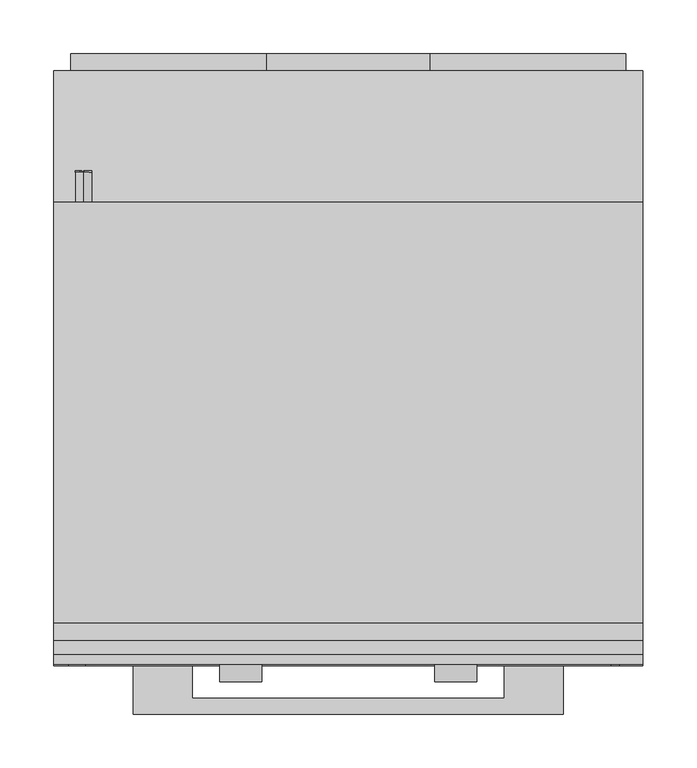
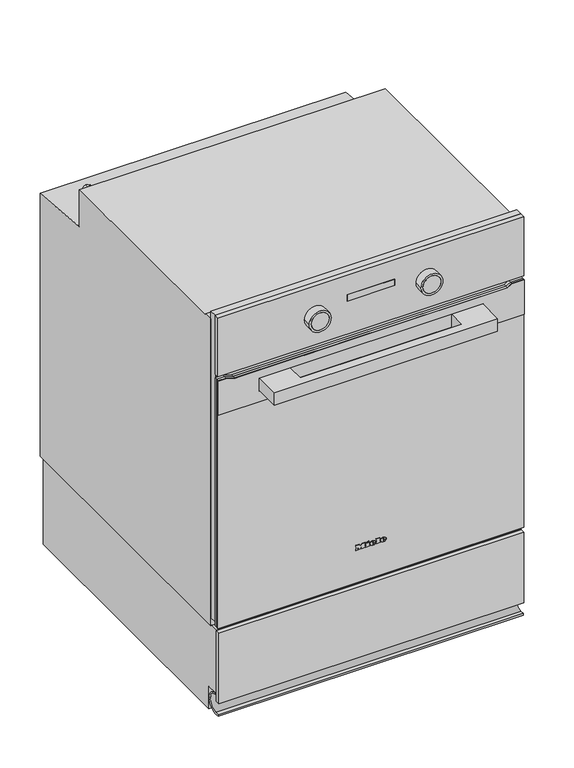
"""IFC4 building model written with IfcOpenShell, lengths in millimetres: proxy geometry, 12146130_CH_H2861-55BP_EDST-CLS : 22286149_CH_12146130_H2861-55BP_EDST-CLS."""

from ifc_helpers import new_model, si_unit, point, frame, frame_2d, origin, place, context, project, spatial, polyline, circle_curve, ellipse_curve, trimmed, segment, composite_curve, outline, extrude, faceted_brep, source, transform, mapped, element, save
from ifc_brep_helpers import plane_surface, cylinder_surface, revolved_surface, extruded_surface, advanced_brep


def specialty_equipment_0b252357(model_context):
    return source(origin(), model_context, "Body", "SolidModel", [
        extrude(outline(polyline([(-273.5, -15.3), (273.5, -15.3), (273.5, -23.3), (-273.5, -23.3), (-273.5, -15.3)])), frame((0.0, 0.0, 28.0), z_axis=(0.0, 0.0, 1.0), x_axis=(1.0, 0.0, 0.0)), (0.0, 0.0, 1.0), 133.5),
        extrude(outline(composite_curve([segment(polyline([(-15.3, 39.5), (-15.3, 42.0), (-13.3, 42.0)]), True, "CONTINUOUS"), segment(trimmed(circle_curve(frame_2d((-13.3, 23.0)), 19.0), [point((-13.3, 42.0))], [point((5.7, 23.0))], False, "CARTESIAN"), True, "CONTINUOUS"), segment(trimmed(circle_curve(frame_2d((-16.2470942, 23.0)), 21.9470942), [point((5.7, 23.0))], [point((2.0965309, 10.9506696))], False, "CARTESIAN"), True, "CONTINUOUS"), segment(trimmed(circle_curve(frame_2d((-13.3, 22.7225846)), 19.381206), [point((2.0965309, 10.9506696))], [point((-13.3, 3.3413786))], False, "CARTESIAN"), True, "CONTINUOUS"), segment(polyline([(-13.3, 3.3413786), (-21.3, 3.3413786), (-21.3, 6.5166751), (-13.9417749, 6.5166751)]), True, "CONTINUOUS"), segment(trimmed(circle_curve(frame_2d((-13.9417749, 23.0333249)), 16.5166498), [point((-13.9417749, 6.5166751))], [point((-12.6579007, 39.5))], True, "CARTESIAN"), True, "CONTINUOUS"), segment(polyline([(-12.6579007, 39.5), (-15.3, 39.5)]), True, "CONTINUOUS")], self_intersect=False)), frame((-273.5, 0.0, 0.0), z_axis=(1.0, 0.0, 0.0), x_axis=(0.0, 1.0, 0.0)), (0.0, 0.0, 1.0), 547.0),
        extrude(outline(polyline([(-15.3, 162.0), (520.7, 162.0), (520.7, 0.0), (6.7, 0.0), (6.7, 43.1784801), (-15.3, 43.1784801), (-15.3, 162.0)])), frame((-273.5, 0.0, 0.0), z_axis=(1.0, 0.0, 0.0), x_axis=(0.0, 1.0, 0.0)), (0.0, 0.0, 1.0), 547.0),
        advanced_brep(
        [(21.28, -23.0, 234.133), (21.28, -23.0, 235.042), (27.301, -23.0, 235.042), (16.825, -23.0, 235.042), (19.3, -23.0, 232.0), (27.148, -23.0, 234.133), (24.43, -23.0, 234.133), (22.288, -23.0, 233.125), (21.28, -23.0, 236.194), (21.28, -23.0, 237.175), (22.819, -23.0, 237.175), (22.819, -23.0, 236.194), (21.28, -22.0, 234.133), (22.288, -22.0, 233.125), (24.43, -22.0, 234.133), (27.148, -22.0, 234.133), (19.3, -22.0, 232.0), (16.825, -22.0, 235.042), (27.301, -22.0, 235.042), (21.28, -22.0, 235.042), (21.28, -22.0, 236.194), (22.819, -22.0, 236.194), (22.819, -22.0, 237.175), (21.28, -22.0, 237.175)],
        [
            (0, 1),
            (1, 2),
            (2, 3, ellipse_curve(frame((22.063, -23.0, 235.042), z_axis=(0.0, -1.0, 0.0), x_axis=(-1.0, 0.0, 0.0)), 5.238, 4.329)),
            (3, 4, circle_curve(frame((20.3080491, -23.0, 235.348), z_axis=(0.0, -1.0, 0.0), x_axis=(0.0, 0.0, -1.0)), 3.4964649)),
            (4, 5, circle_curve(frame((21.9581428, -23.0, 237.724), z_axis=(0.0, -1.0, 0.0), x_axis=(0.0, 0.0, -1.0)), 6.3110933)),
            (5, 6),
            (6, 7, circle_curve(frame((22.7279412, -23.0, 234.97), z_axis=(0.0, 1.0, 0.0), x_axis=(0.0, 0.0, -1.0)), 1.896727)),
            (7, 0, circle_curve(frame((22.288, -23.0, 234.133), z_axis=(0.0, 1.0, 0.0), x_axis=(0.0, 0.0, -1.0)), 1.008)),
            (8, 9),
            (9, 10, circle_curve(frame((22.0495, -23.0, 237.175), z_axis=(0.0, 1.0, 0.0), x_axis=(0.0, 0.0, -1.0)), 0.7695)),
            (10, 11),
            (11, 8),
            (12, 13, circle_curve(frame((22.288, -22.0, 234.133), z_axis=(0.0, -1.0, 0.0), x_axis=(0.0, 0.0, -1.0)), 1.008)),
            (13, 14, circle_curve(frame((22.7279412, -22.0, 234.97), z_axis=(0.0, -1.0, 0.0), x_axis=(0.0, 0.0, -1.0)), 1.896727)),
            (14, 15),
            (15, 16, circle_curve(frame((21.9581428, -22.0, 237.724), z_axis=(0.0, 1.0, 0.0), x_axis=(0.0, 0.0, -1.0)), 6.3110933)),
            (16, 17, circle_curve(frame((20.3080491, -22.0, 235.348), z_axis=(0.0, 1.0, 0.0), x_axis=(0.0, 0.0, -1.0)), 3.4964649)),
            (17, 18, ellipse_curve(frame((22.063, -22.0, 235.042), z_axis=(0.0, 1.0, 0.0), x_axis=(-1.0, 0.0, 0.0)), 5.238, 4.329)),
            (18, 19),
            (19, 12),
            (20, 21),
            (21, 22),
            (22, 23, circle_curve(frame((22.0495, -22.0, 237.175), z_axis=(0.0, -1.0, 0.0), x_axis=(0.0, 0.0, -1.0)), 0.7695)),
            (23, 20),
            (0, 12),
            (19, 1),
            (18, 2),
            (5, 15),
            (14, 6),
            (17, 3),
            (13, 7),
            (16, 4),
            (8, 20),
            (23, 9),
            (22, 10),
            (21, 11),
        ],
        [
            plane_surface(frame((21.28, -23.0, 235.042), z_axis=(0.0, -1.0, 0.0), x_axis=(0.0, 0.0, 1.0))),
            plane_surface(frame((21.28, -22.0, 235.042), z_axis=(0.0, 1.0, 0.0), x_axis=(0.0, 0.0, -1.0))),
            plane_surface(frame((21.28, -23.0, 234.133), z_axis=(1.0, 0.0, 0.0), x_axis=(0.0, 1.0, 0.0))),
            plane_surface(frame((21.28, -23.0, 235.042), z_axis=(0.0, 0.0, -1.0), x_axis=(0.0, 1.0, 0.0))),
            plane_surface(frame((27.148, -23.0, 234.133), z_axis=(0.0, 0.0, 1.0), x_axis=(0.0, 1.0, 0.0))),
            extruded_surface(trimmed(ellipse_curve(frame((22.063, -21.0, 235.042), z_axis=(0.0, -1.0, 0.0), x_axis=(-1.0, 0.0, 0.0)), 5.238, 4.329), [point((27.301, -21.0, 235.042))], [point((16.825, -21.0, 235.042))], True, "CARTESIAN"), (0.0, -1.0, 0.0), 1.0),
            revolved_surface(polyline([(22.7279412, -22.0, 233.073273), (22.7279412, -23.0, 233.073273)]), (22.7279412, -22.0, 234.97), (0.0, 1.0, 0.0)),
            revolved_surface(polyline([(22.288, -22.0, 233.125), (22.288, -23.0, 233.125)]), (22.288, -22.0, 234.133), (0.0, 1.0, 0.0)),
            cylinder_surface(frame((20.3080491, -22.0, 235.348), z_axis=(0.0, -1.0, 0.0), x_axis=(0.0, 0.0, -1.0)), 3.4964649),
            cylinder_surface(frame((21.9581428, -22.0, 237.724), z_axis=(0.0, -1.0, 0.0), x_axis=(0.0, 0.0, -1.0)), 6.3110933),
            plane_surface(frame((21.28, -23.0, 236.194), z_axis=(1.0, 0.0, 0.0), x_axis=(0.0, 1.0, 0.0))),
            revolved_surface(polyline([(22.0495, -22.0, 236.40550000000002), (22.0495, -23.0, 236.40550000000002)]), (22.0495, -22.0, 237.175), (0.0, 1.0, 0.0)),
            plane_surface(frame((22.819, -23.0, 237.175), z_axis=(-1.0, 0.0, 0.0), x_axis=(0.0, 1.0, 0.0))),
            plane_surface(frame((22.819, -23.0, 236.194), z_axis=(0.0, 0.0, 1.0), x_axis=(0.0, 1.0, 0.0))),
        ],
        [
            (0, [[1, 2, 3, 4, 5, 6, 7, 8], [9, 10, 11, 12]]),
            (1, [[13, 14, 15, 16, 17, 18, 19, 20], [21, 22, 23, 24]]),
            (2, [[-1, 25, -20, 26]]),
            (3, [[-2, -26, -19, 27]]),
            (4, [[-6, 28, -15, 29]]),
            (5, [[-3, -27, -18, 30]]),
            (6, [[-7, -29, -14, 31]]),
            (7, [[-8, -31, -13, -25]]),
            (8, [[-4, -30, -17, 32]]),
            (9, [[-5, -32, -16, -28]]),
            (10, [[-9, 33, -24, 34]]),
            (11, [[-10, -34, -23, 35]]),
            (12, [[-11, -35, -22, 36]]),
            (13, [[-12, -36, -21, -33]]),
        ],
    ),
        advanced_brep(
        [(2.497, -23.0, 234.133), (2.497, -23.0, 235.042), (8.518, -23.0, 235.042), (-1.958, -23.0, 235.042), (0.517, -23.0, 232.0), (8.365, -23.0, 234.133), (5.647, -23.0, 234.133), (3.505, -23.0, 233.125), (2.497, -23.0, 236.194), (2.497, -23.0, 237.175), (4.036, -23.0, 237.175), (4.036, -23.0, 236.194), (2.497, -22.0, 234.133), (3.505, -22.0, 233.125), (5.647, -22.0, 234.133), (8.365, -22.0, 234.133), (0.517, -22.0, 232.0), (-1.958, -22.0, 235.042), (8.518, -22.0, 235.042), (2.497, -22.0, 235.042), (2.497, -22.0, 236.194), (4.036, -22.0, 236.194), (4.036, -22.0, 237.175), (2.497, -22.0, 237.175)],
        [
            (0, 1),
            (1, 2),
            (2, 3, ellipse_curve(frame((3.28, -23.0, 235.042), z_axis=(0.0, -1.0, 0.0), x_axis=(-1.0, 0.0, 0.0)), 5.238, 4.329)),
            (3, 4, circle_curve(frame((1.5250491, -23.0, 235.348), z_axis=(0.0, -1.0, 0.0), x_axis=(0.0, 0.0, -1.0)), 3.4964649)),
            (4, 5, circle_curve(frame((3.1751428, -23.0, 237.724), z_axis=(0.0, -1.0, 0.0), x_axis=(0.0, 0.0, -1.0)), 6.3110933)),
            (5, 6),
            (6, 7, circle_curve(frame((3.9449412, -23.0, 234.97), z_axis=(0.0, 1.0, 0.0), x_axis=(0.0, 0.0, -1.0)), 1.896727)),
            (7, 0, circle_curve(frame((3.505, -23.0, 234.133), z_axis=(0.0, 1.0, 0.0), x_axis=(0.0, 0.0, -1.0)), 1.008)),
            (8, 9),
            (9, 10, circle_curve(frame((3.2665, -23.0, 237.175), z_axis=(0.0, 1.0, 0.0), x_axis=(0.0, 0.0, -1.0)), 0.7695)),
            (10, 11),
            (11, 8),
            (12, 13, circle_curve(frame((3.505, -22.0, 234.133), z_axis=(0.0, -1.0, 0.0), x_axis=(0.0, 0.0, -1.0)), 1.008)),
            (13, 14, circle_curve(frame((3.9449412, -22.0, 234.97), z_axis=(0.0, -1.0, 0.0), x_axis=(0.0, 0.0, -1.0)), 1.896727)),
            (14, 15),
            (15, 16, circle_curve(frame((3.1751428, -22.0, 237.724), z_axis=(0.0, 1.0, 0.0), x_axis=(0.0, 0.0, -1.0)), 6.3110933)),
            (16, 17, circle_curve(frame((1.5250491, -22.0, 235.348), z_axis=(0.0, 1.0, 0.0), x_axis=(0.0, 0.0, -1.0)), 3.4964649)),
            (17, 18, ellipse_curve(frame((3.28, -22.0, 235.042), z_axis=(0.0, 1.0, 0.0), x_axis=(-1.0, 0.0, 0.0)), 5.238, 4.329)),
            (18, 19),
            (19, 12),
            (20, 21),
            (21, 22),
            (22, 23, circle_curve(frame((3.2665, -22.0, 237.175), z_axis=(0.0, -1.0, 0.0), x_axis=(0.0, 0.0, -1.0)), 0.7695)),
            (23, 20),
            (0, 12),
            (19, 1),
            (18, 2),
            (5, 15),
            (14, 6),
            (17, 3),
            (13, 7),
            (16, 4),
            (8, 20),
            (23, 9),
            (22, 10),
            (21, 11),
        ],
        [
            plane_surface(frame((2.497, -23.0, 235.042), z_axis=(0.0, -1.0, 0.0), x_axis=(0.0, 0.0, 1.0))),
            plane_surface(frame((2.497, -22.0, 235.042), z_axis=(0.0, 1.0, 0.0), x_axis=(0.0, 0.0, -1.0))),
            plane_surface(frame((2.497, -23.0, 234.133), z_axis=(1.0, 0.0, 0.0), x_axis=(0.0, 1.0, 0.0))),
            plane_surface(frame((2.497, -23.0, 235.042), z_axis=(0.0, 0.0, -1.0), x_axis=(0.0, 1.0, 0.0))),
            plane_surface(frame((8.365, -23.0, 234.133), z_axis=(0.0, 0.0, 1.0), x_axis=(0.0, 1.0, 0.0))),
            extruded_surface(trimmed(ellipse_curve(frame((3.28, -21.0, 235.042), z_axis=(0.0, -1.0, 0.0), x_axis=(-1.0, 0.0, 0.0)), 5.238, 4.329), [point((8.518, -21.0, 235.042))], [point((-1.958, -21.0, 235.042))], True, "CARTESIAN"), (0.0, -1.0, 0.0), 1.0),
            revolved_surface(polyline([(3.9449412, -22.0, 233.073273), (3.9449412, -23.0, 233.073273)]), (3.9449412, -22.0, 234.97), (0.0, 1.0, 0.0)),
            revolved_surface(polyline([(3.505, -22.0, 233.125), (3.505, -23.0, 233.125)]), (3.505, -22.0, 234.133), (0.0, 1.0, 0.0)),
            cylinder_surface(frame((1.5250491, -22.0, 235.348), z_axis=(0.0, -1.0, 0.0), x_axis=(0.0, 0.0, -1.0)), 3.4964649),
            cylinder_surface(frame((3.1751428, -22.0, 237.724), z_axis=(0.0, -1.0, 0.0), x_axis=(0.0, 0.0, -1.0)), 6.3110933),
            plane_surface(frame((2.497, -23.0, 236.194), z_axis=(1.0, 0.0, 0.0), x_axis=(0.0, 1.0, 0.0))),
            revolved_surface(polyline([(3.2665, -22.0, 236.40550000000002), (3.2665, -23.0, 236.40550000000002)]), (3.2665, -22.0, 237.175), (0.0, 1.0, 0.0)),
            plane_surface(frame((4.036, -23.0, 237.175), z_axis=(-1.0, 0.0, 0.0), x_axis=(0.0, 1.0, 0.0))),
            plane_surface(frame((4.036, -23.0, 236.194), z_axis=(0.0, 0.0, 1.0), x_axis=(0.0, 1.0, 0.0))),
        ],
        [
            (0, [[1, 2, 3, 4, 5, 6, 7, 8], [9, 10, 11, 12]]),
            (1, [[13, 14, 15, 16, 17, 18, 19, 20], [21, 22, 23, 24]]),
            (2, [[-1, 25, -20, 26]]),
            (3, [[-2, -26, -19, 27]]),
            (4, [[-6, 28, -15, 29]]),
            (5, [[-3, -27, -18, 30]]),
            (6, [[-7, -29, -14, 31]]),
            (7, [[-8, -31, -13, -25]]),
            (8, [[-4, -30, -17, 32]]),
            (9, [[-5, -32, -16, -28]]),
            (10, [[-9, 33, -24, 34]]),
            (11, [[-10, -34, -23, 35]]),
            (12, [[-11, -35, -22, 36]]),
            (13, [[-12, -36, -21, -33]]),
        ],
    ),
        extrude(outline(polyline([(240.469, -7.34), (239.011, -6.656), (240.433, -3.605), (241.891, -4.28), (240.469, -7.34)])), frame((0.0, -23.0, 0.0), z_axis=(0.0, 1.0, 0.0), x_axis=(0.0, 0.0, 1.0)), (0.0, 0.0, 1.0), 1.0),
        extrude(outline(polyline([(238.813, -9.563), (237.202, -9.563), (237.202, -8.492), (233.512, -8.492), (233.512, -9.563), (232.0, -9.563), (232.0, -2.462), (233.512, -2.462), (233.512, -3.506), (238.813, -3.506), (238.813, -9.563)])), frame((0.0, -23.0, 0.0), z_axis=(0.0, 1.0, 0.0), x_axis=(0.0, 0.0, 1.0)), (0.0, 0.0, 1.0), 1.0),
        extrude(outline(polyline([(239.533, 9.022), (239.533, 10.102), (233.512, 10.102), (233.512, 9.022), (232.0, 9.022), (232.0, 16.321), (233.512, 16.321), (233.512, 15.214), (241.0, 15.214), (241.0, 9.022), (239.533, 9.022)])), frame((0.0, -23.0, 0.0), z_axis=(0.0, 1.0, 0.0), x_axis=(0.0, 0.0, 1.0)), (0.0, 0.0, 1.0), 1.0),
        extrude(outline(polyline([(239.533, -27.5), (239.533, -26.411), (233.512, -26.411), (233.512, -27.5), (232.0, -27.5), (232.0, -23.54), (233.512, -23.54), (233.512, -24.62), (237.3341247, -24.62), (232.0, -20.597), (237.4402223, -16.556), (233.512, -16.556), (233.512, -17.663), (232.0, -17.663), (232.0, -10.481), (233.512, -10.481), (233.512, -11.624), (239.533, -11.624), (239.533, -10.481), (241.0, -10.481), (241.0, -15.962), (237.625, -18.59), (241.0, -21.227), (241.0, -27.5), (239.533, -27.5)])), frame((0.0, -23.0, 0.0), z_axis=(0.0, 1.0, 0.0), x_axis=(0.0, 0.0, 1.0)), (0.0, 0.0, 1.0), 1.0),
        extrude(outline(polyline([(-200.0, -68.3), (-200.0, -22.0), (-145.0, -22.0), (-145.0, -53.3), (145.0, -53.3), (145.0, -22.0), (200.0, -22.0), (200.0, -68.3), (-200.0, -68.3)])), frame((0.0, 0.0, 595.0), z_axis=(0.0, 0.0, 1.0), x_axis=(1.0, 0.0, 0.0)), (0.0, 0.0, 1.0), 24.0),
        extrude(outline(polyline([(639.5, -274.0), (170.0, -274.0), (170.0, 274.0), (639.5, 274.0), (639.5, 252.5209298), (634.5, 244.0), (634.5, -244.0), (639.5, -260.3542631), (639.5, -274.0)])), frame((0.0, -22.0, 0.0), z_axis=(0.0, 1.0, 0.0), x_axis=(0.0, 0.0, 1.0)), (0.0, 0.0, 1.0), 4.0),
        extrude(outline(polyline([(639.5, -274.0), (574.5, -274.0), (574.5, 274.0), (639.5, 274.0), (639.5, 252.5209298), (634.5, 244.0), (634.5, -244.0), (639.5, -260.3542631), (639.5, -274.0)]), holes=[polyline([(619.5, -200.5), (619.5, 200.5), (594.5, 200.5), (594.5, -200.5), (619.5, -200.5)])]), frame((0.0, -23.3, 0.0), z_axis=(0.0, 1.0, 0.0), x_axis=(0.0, 0.0, 1.0)), (0.0, 0.0, 1.0), 1.3),
        extrude(outline(polyline([(639.5, -274.0), (170.0, -274.0), (170.0, 274.0), (639.5, 274.0), (639.5, 252.5209298), (634.5, 244.0), (634.5, -244.0), (639.5, -260.3542631), (639.5, -274.0)])), frame((0.0, -18.0, 0.0), z_axis=(0.0, 1.0, 0.0), x_axis=(0.0, 0.0, 1.0)), (0.0, 0.0, 1.0), 5.0),
        extrude(outline(polyline([(42.5, -22.0), (-42.5, -22.0), (-42.5, -20.0), (42.5, -20.0), (42.5, -22.0)])), frame((0.0, 0.0, 709.0), z_axis=(0.0, 0.0, 1.0), x_axis=(1.0, 0.0, 0.0)), (0.0, 0.0, 1.0), 12.0),
        faceted_brep([(274.0, -13.0, 758.0), (274.0, -13.0, 646.5), (-274.0, -13.0, 646.5), (-274.0, -13.0, 758.0), (274.0, -22.0, 646.5), (-274.0, -22.0, 646.5), (274.0, -22.0, 758.0), (-274.0, -22.0, 758.0), (-42.5, -22.0, 721.0), (42.5, -22.0, 721.0), (42.5, -22.0, 709.0), (-42.5, -22.0, 709.0), (-42.5, -20.0, 721.0), (42.5, -20.0, 721.0), (-42.5, -20.0, 709.0), (42.5, -20.0, 709.0)], [[[0, 1, 2, 3]], [[4, 5, 2, 1]], [[6, 7, 5, 4], [8, 9, 10, 11]], [[12, 13, 9, 8]], [[7, 6, 0, 3]], [[5, 7, 3, 2]], [[6, 4, 1, 0]], [[13, 12, 14, 15]], [[14, 12, 8, 11]], [[15, 14, 11, 10]], [[13, 15, 10, 9]]]),
        extrude(outline(composite_curve([segment(trimmed(circle_curve(frame_2d((700.5, -100.0)), 16.0), [point((700.5, -116.0))], [point((700.5, -84.0))], False, "CARTESIAN"), True, "CONTINUOUS"), segment(trimmed(circle_curve(frame_2d((700.5, -100.0)), 16.0), [point((700.5, -84.0))], [point((700.5, -116.0))], False, "CARTESIAN"), True, "CONTINUOUS")], self_intersect=False)), frame((0.0, -38.0, 0.0), z_axis=(0.0, 1.0, 0.0), x_axis=(0.0, 0.0, 1.0)), (0.0, 0.0, 1.0), 16.0),
        extrude(outline(composite_curve([segment(trimmed(circle_curve(frame_2d((700.5, 100.0)), 16.0), [point((700.5, 84.0))], [point((700.5, 116.0))], False, "CARTESIAN"), True, "CONTINUOUS"), segment(trimmed(circle_curve(frame_2d((700.5, 100.0)), 16.0), [point((700.5, 116.0))], [point((700.5, 84.0))], False, "CARTESIAN"), True, "CONTINUOUS")], self_intersect=False)), frame((0.0, -38.0, 0.0), z_axis=(0.0, 1.0, 0.0), x_axis=(0.0, 0.0, 1.0)), (0.0, 0.0, 1.0), 16.0),
        extrude(outline(composite_curve([segment(trimmed(circle_curve(frame_2d((700.5, 100.0)), 19.7), [point((700.5, 80.3))], [point((700.5, 119.7))], False, "CARTESIAN"), True, "CONTINUOUS"), segment(trimmed(circle_curve(frame_2d((700.5, 100.0)), 19.7), [point((700.5, 119.7))], [point((700.5, 80.3))], False, "CARTESIAN"), True, "CONTINUOUS")], self_intersect=False), holes=[composite_curve([segment(trimmed(circle_curve(frame_2d((700.5, 100.0)), 16.0), [point((700.5, 84.0))], [point((700.5, 116.0))], True, "CARTESIAN"), True, "CONTINUOUS"), segment(trimmed(circle_curve(frame_2d((700.5, 100.0)), 16.0), [point((700.5, 116.0))], [point((700.5, 84.0))], True, "CARTESIAN"), True, "CONTINUOUS")], self_intersect=False)]), frame((0.0, -38.0, 0.0), z_axis=(0.0, 1.0, 0.0), x_axis=(0.0, 0.0, 1.0)), (0.0, 0.0, 1.0), 16.0),
        extrude(outline(composite_curve([segment(trimmed(circle_curve(frame_2d((700.5, -100.0)), 19.7), [point((700.5, -119.7))], [point((700.5, -80.3))], False, "CARTESIAN"), True, "CONTINUOUS"), segment(trimmed(circle_curve(frame_2d((700.5, -100.0)), 19.7), [point((700.5, -80.3))], [point((700.5, -119.7))], False, "CARTESIAN"), True, "CONTINUOUS")], self_intersect=False), holes=[composite_curve([segment(trimmed(circle_curve(frame_2d((700.5, -100.0)), 16.0), [point((700.5, -116.0))], [point((700.5, -84.0))], True, "CARTESIAN"), True, "CONTINUOUS"), segment(trimmed(circle_curve(frame_2d((700.5, -100.0)), 16.0), [point((700.5, -84.0))], [point((700.5, -116.0))], True, "CARTESIAN"), True, "CONTINUOUS")], self_intersect=False)]), frame((0.0, -38.0, 0.0), z_axis=(0.0, 1.0, 0.0), x_axis=(0.0, 0.0, 1.0)), (0.0, 0.0, 1.0), 16.0),
        faceted_brep([(274.0, 0.0, 162.0), (274.0, 530.0, 162.0), (274.0, 530.0, 659.4219562), (274.0, 408.0, 670.5494875), (274.0, 408.0, 740.0), (274.0, 16.0, 740.0), (274.0, 16.0, 743.0), (274.0, 0.0, 743.0), (-274.0, 0.0, 162.0), (-274.0, 0.0, 743.0), (-274.0, 16.0, 743.0), (-274.0, 16.0, 740.0), (-274.0, 408.0, 740.0), (-274.0, 408.0, 670.5494875), (-274.0, 530.0, 659.4219562), (-274.0, 530.0, 162.0), (-235.0, 0.0, 590.0), (235.0, 0.0, 590.0), (235.0, 0.0, 204.0), (-235.0, 0.0, 204.0), (235.0, 433.0, 590.0), (-235.0, 433.0, 590.0), (-235.0, 433.0, 204.0), (235.0, 433.0, 204.0)], [[[0, 1, 2, 3, 4, 5, 6, 7]], [[8, 9, 10, 11, 12, 13, 14, 15]], [[1, 0, 8, 15]], [[1, 15, 14, 2]], [[11, 5, 4, 12]], [[0, 7, 9, 8], [16, 17, 18, 19]], [[6, 5, 11, 10]], [[7, 6, 10, 9]], [[13, 3, 2, 14]], [[3, 13, 12, 4]], [[20, 21, 22, 23]], [[21, 20, 17, 16]], [[22, 21, 16, 19]], [[23, 22, 19, 18]], [[20, 23, 18, 17]]]),
        extrude(outline(polyline([(720.0464496, -245.8425503), (718.7915157, -245.8425503), (718.7915157, -239.8786472), (715.8088265, -239.8786472), (715.8088265, -245.5253567), (714.5510117, -245.5253567), (714.5510117, -239.8786472), (711.2605911, -239.8786472), (711.2605911, -245.9946301), (709.9978772, -245.9946301), (709.9978772, -238.6251477), (720.0464496, -238.6251477), (720.0464496, -245.8425503)])), frame((0.0, 436.0, 0.0), z_axis=(0.0, 1.0, 0.0), x_axis=(0.0, 0.0, 1.0)), (0.0, 0.0, 1.0), 1.0),
        extrude(outline(polyline([(720.0498619, -249.1372374), (711.2558696, -249.1372374), (711.2558696, -254.1557124), (710.0011788, -254.1557124), (710.0011788, -247.8766443), (720.0498619, -247.8766443), (720.0498619, -249.1372374)])), frame((0.0, 436.0, 0.0), z_axis=(0.0, 1.0, 0.0), x_axis=(0.0, 0.0, 1.0)), (0.0, 0.0, 1.0), 1.0),
        extrude(outline(composite_curve([segment(trimmed(circle_curve(frame_2d((715.0, -246.0)), 7.5), [point((707.5, -246.0))], [point((722.5, -246.0))], False, "CARTESIAN"), True, "CONTINUOUS"), segment(trimmed(circle_curve(frame_2d((715.0, -246.0)), 7.5), [point((722.5, -246.0))], [point((707.5, -246.0))], False, "CARTESIAN"), True, "CONTINUOUS")], self_intersect=False)), frame((0.0, 406.0, 0.0), z_axis=(0.0, 1.0, 0.0), x_axis=(0.0, 0.0, 1.0)), (0.0, 0.0, 1.0), 30.0),
        extrude(outline(polyline([(499.5, 76.0), (540.5, 76.0), (540.5, -76.0), (499.5, -76.0), (499.5, -258.0), (351.6961275, -258.0), (351.6961275, -76.0), (326.5, -76.0), (326.5, 76.0), (351.6961275, 76.0), (351.6961275, 258.0), (499.5, 258.0), (499.5, 76.0)])), frame((0.0, 530.0, 0.0), z_axis=(0.0, 1.0, 0.0), x_axis=(0.0, 0.0, 1.0)), (0.0, 0.0, 1.0), 16.0),
        extrude(outline(polyline([(177.0, 274.0), (758.0, 274.0), (758.0, -274.0), (177.0, -274.0), (177.0, -272.0), (646.0, -272.0), (646.0, 272.0), (177.0, 272.0), (177.0, 274.0)])), frame((0.0, -13.0, 0.0), z_axis=(0.0, 1.0, 0.0), x_axis=(0.0, 0.0, 1.0)), (0.0, 0.0, 1.0), 13.0),
    ])


if __name__ == "__main__":
    model = new_model("IFC4")
    model_context = context("Model", 3, world=origin())
    ifc_project = project(units=[si_unit("LENGTHUNIT", "METRE", prefix="MILLI")], contexts=[model_context])
    site = spatial("IfcSite", under=ifc_project)
    building = spatial("IfcBuilding", under=site)
    placement = place(None, origin())
    specialty_equipment_shape = specialty_equipment_0b252357(model_context)
    element("IfcBuildingElementProxy", 1, Name="12146130_CH_H2861-55BP_EDST-CLS : 22286149_CH_12146130_H2861-55BP_EDST-CLS", ObjectType="12146130_CH_H2861-55BP_EDST-CLS : 22286149_CH_12146130_H2861-55BP_EDST-CLS", at=placement, inside=building, context=model_context, shape_type="MappedRepresentation", body=[
        mapped(specialty_equipment_shape, transform((0.0, 0.0, 0.0), x_axis=(1.0, 0.0, 0.0), y_axis=(0.0, 1.0, 0.0), z_axis=(0.0, 0.0, 1.0))),
    ])
    save(model, "model.ifc")
